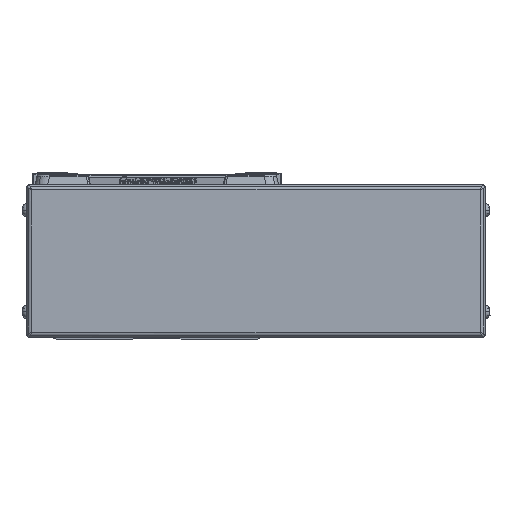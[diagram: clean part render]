
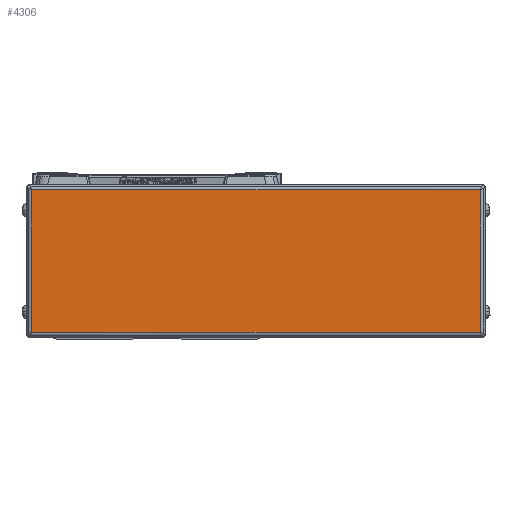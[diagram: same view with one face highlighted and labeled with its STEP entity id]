
A CAD part, left-side view. The second image highlights one B-rep face of the part: STEP entity #4306.
In plain terms, the highlighted planar face has unit normal (-1, 0, 0).
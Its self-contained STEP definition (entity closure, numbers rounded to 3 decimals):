
#4306=ADVANCED_FACE('',(#9232),#9233,.T.);
#9232=FACE_OUTER_BOUND('',#15473,.T.);
#9233=PLANE('',#15474);
#15473=EDGE_LOOP('',(#27818,#27819,#27820,#27821));
#15474=AXIS2_PLACEMENT_3D('',#27822,#27823,#27824);
#27818=ORIENTED_EDGE('',*,*,#38669,.F.);
#27819=ORIENTED_EDGE('',*,*,#38670,.F.);
#27820=ORIENTED_EDGE('',*,*,#38671,.F.);
#27821=ORIENTED_EDGE('',*,*,#38672,.F.);
#27822=CARTESIAN_POINT('',(-616.,-39.,0.));
#27823=DIRECTION('',(-1.0,0.,0.));
#27824=DIRECTION('',(0.,0.,1.0));
#38669=EDGE_CURVE('',#47695,#44596,#47696,.T.);
#38670=EDGE_CURVE('',#45883,#47695,#47697,.T.);
#38671=EDGE_CURVE('',#42192,#45883,#47698,.T.);
#38672=EDGE_CURVE('',#44596,#42192,#47699,.T.);
#42192=VERTEX_POINT('',#52425);
#44596=VERTEX_POINT('',#55670);
#45883=VERTEX_POINT('',#57419);
#47695=VERTEX_POINT('',#59840);
#47696=LINE('',#59841,#59842);
#47697=LINE('',#59843,#59844);
#47698=LINE('',#59845,#59846);
#47699=LINE('',#59847,#59848);
#52425=CARTESIAN_POINT('',(-616.,-127.2,-28.));
#55670=CARTESIAN_POINT('',(-616.,-127.2,28.));
#57419=CARTESIAN_POINT('',(-616.0,49.2,-28.));
#59840=CARTESIAN_POINT('',(-616.,49.2,28.));
#59841=CARTESIAN_POINT('',(-616.,-39.,28.));
#59842=VECTOR('',#68530,10.0);
#59843=CARTESIAN_POINT('',(-616.0,49.2,0.));
#59844=VECTOR('',#68531,10.0);
#59845=CARTESIAN_POINT('',(-616.,-39.,-28.));
#59846=VECTOR('',#68532,10.0);
#59847=CARTESIAN_POINT('',(-616.,-127.2,0.));
#59848=VECTOR('',#68533,10.0);
#68530=DIRECTION('',(0.,-1.0,0.));
#68531=DIRECTION('',(0.,0.,1.0));
#68532=DIRECTION('',(0.,1.0,0.));
#68533=DIRECTION('',(0.,0.,-1.0));
